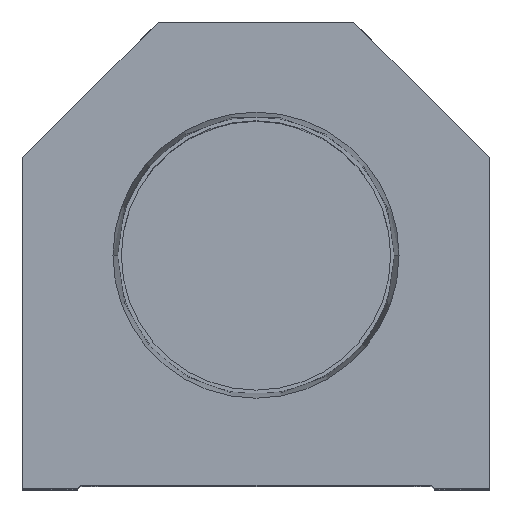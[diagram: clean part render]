
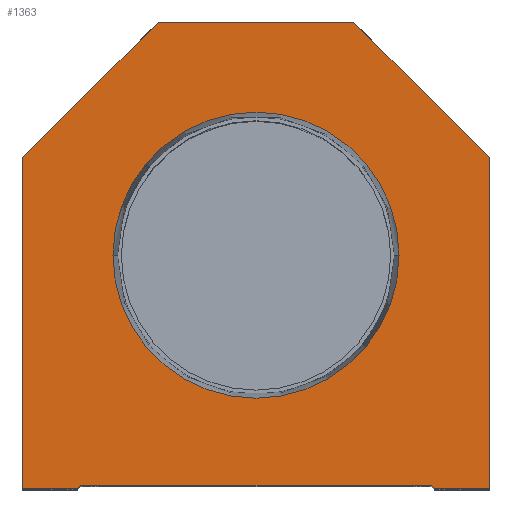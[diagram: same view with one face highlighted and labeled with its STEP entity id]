
A CAD part, top view. The second image highlights one B-rep face of the part: STEP entity #1363.
In plain terms, the highlighted planar face has unit normal (0, 0, 1).
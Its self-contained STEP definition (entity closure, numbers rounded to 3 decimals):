
#62 = LINE ( 'NONE', #5202, #13081 ) ;
#248 = FACE_BOUND ( 'NONE', #15705, .T. ) ;
#261 = DIRECTION ( 'NONE',  ( 0.707, -0.707, 0. ) ) ;
#275 = DIRECTION ( 'NONE',  ( 1., 0., 0. ) ) ;
#625 = DIRECTION ( 'NONE',  ( -1., 0., 0. ) ) ;
#743 = CARTESIAN_POINT ( 'NONE',  ( 16., 76.2, 0. ) ) ;
#905 = DIRECTION ( 'NONE',  ( 0.707, 0.707, 0. ) ) ;
#1092 = VERTEX_POINT ( 'NONE', #5090 ) ;
#1361 = CARTESIAN_POINT ( 'NONE',  ( -38.1, 0., 0. ) ) ;
#1363 = ADVANCED_FACE ( 'NONE', ( #248, #10842 ), #6799, .T. ) ;
#1418 = VERTEX_POINT ( 'NONE', #14984 ) ;
#1526 = ORIENTED_EDGE ( 'NONE', *, *, #9834, .F. ) ;
#1748 = ORIENTED_EDGE ( 'NONE', *, *, #9357, .T. ) ;
#2117 = AXIS2_PLACEMENT_3D ( 'NONE', #16730, #15607, #11363 ) ;
#2367 = LINE ( 'NONE', #16811, #14946 ) ;
#2427 = LINE ( 'NONE', #8752, #12309 ) ;
#2482 = VECTOR ( 'NONE', #625, 1000. ) ;
#2639 = VERTEX_POINT ( 'NONE', #3225 ) ;
#2698 = VERTEX_POINT ( 'NONE', #8610 ) ;
#2814 = ORIENTED_EDGE ( 'NONE', *, *, #7598, .T. ) ;
#3225 = CARTESIAN_POINT ( 'NONE',  ( 28.6, 0.5, 0. ) ) ;
#3289 = VERTEX_POINT ( 'NONE', #6743 ) ;
#3616 = VECTOR ( 'NONE', #905, 1000. ) ;
#3782 = CIRCLE ( 'NONE', #2117, 23.374 ) ;
#4120 = LINE ( 'NONE', #13556, #12375 ) ;
#4180 = DIRECTION ( 'NONE',  ( 0., 0., 1. ) ) ;
#4314 = VERTEX_POINT ( 'NONE', #16667 ) ;
#4358 = LINE ( 'NONE', #9612, #5759 ) ;
#4691 = VERTEX_POINT ( 'NONE', #11503 ) ;
#4780 = VECTOR ( 'NONE', #7660, 1000. ) ;
#4964 = LINE ( 'NONE', #10223, #10073 ) ;
#5090 = CARTESIAN_POINT ( 'NONE',  ( -16., 76.2, 0. ) ) ;
#5162 = CARTESIAN_POINT ( 'NONE',  ( -14.55, 14.55, 0. ) ) ;
#5202 = CARTESIAN_POINT ( 'NONE',  ( -28.6, 0.5, 0. ) ) ;
#5211 = EDGE_CURVE ( 'NONE', #1418, #17012, #14052, .T. ) ;
#5485 = ORIENTED_EDGE ( 'NONE', *, *, #12732, .T. ) ;
#5517 = DIRECTION ( 'NONE',  ( 0., -1., 0. ) ) ;
#5758 = EDGE_CURVE ( 'NONE', #2639, #1418, #4358, .T. ) ;
#5759 = VECTOR ( 'NONE', #261, 1000. ) ;
#5882 = CARTESIAN_POINT ( 'NONE',  ( 23.374, 38.1, 0. ) ) ;
#6157 = AXIS2_PLACEMENT_3D ( 'NONE', #14752, #4180, #15852 ) ;
#6743 = CARTESIAN_POINT ( 'NONE',  ( -29.1, 0., 0. ) ) ;
#6799 = PLANE ( 'NONE',  #6157 ) ;
#7075 = LINE ( 'NONE', #12486, #2482 ) ;
#7088 = DIRECTION ( 'NONE',  ( 1., 0., 0. ) ) ;
#7153 = CIRCLE ( 'NONE', #12089, 23.374 ) ;
#7598 = EDGE_CURVE ( 'NONE', #1092, #4691, #4964, .T. ) ;
#7660 = DIRECTION ( 'NONE',  ( 1., 0., 0. ) ) ;
#8122 = EDGE_LOOP ( 'NONE', ( #9719, #14896, #17114, #12190, #8479, #1748, #13539, #5485, #2814, #11129 ) ) ;
#8343 = VERTEX_POINT ( 'NONE', #15591 ) ;
#8477 = CARTESIAN_POINT ( 'NONE',  ( 0., 38.1, 0. ) ) ;
#8479 = ORIENTED_EDGE ( 'NONE', *, *, #5211, .T. ) ;
#8610 = CARTESIAN_POINT ( 'NONE',  ( -23.374, 38.1, 0. ) ) ;
#8694 = DIRECTION ( 'NONE',  ( -0.707, 0.707, 0. ) ) ;
#8752 = CARTESIAN_POINT ( 'NONE',  ( 38.1, 0., 0. ) ) ;
#9357 = EDGE_CURVE ( 'NONE', #17012, #4314, #2427, .T. ) ;
#9507 = VERTEX_POINT ( 'NONE', #5882 ) ;
#9612 = CARTESIAN_POINT ( 'NONE',  ( 14.55, 14.55, 0. ) ) ;
#9719 = ORIENTED_EDGE ( 'NONE', *, *, #11571, .T. ) ;
#9834 = EDGE_CURVE ( 'NONE', #2698, #9507, #3782, .T. ) ;
#10073 = VECTOR ( 'NONE', #14048, 1000. ) ;
#10094 = VERTEX_POINT ( 'NONE', #743 ) ;
#10143 = VECTOR ( 'NONE', #5517, 1000. ) ;
#10223 = CARTESIAN_POINT ( 'NONE',  ( -38.1, 54.1, 0. ) ) ;
#10307 = EDGE_CURVE ( 'NONE', #4691, #8343, #14793, .T. ) ;
#10362 = ORIENTED_EDGE ( 'NONE', *, *, #11352, .F. ) ;
#10842 = FACE_OUTER_BOUND ( 'NONE', #8122, .T. ) ;
#11129 = ORIENTED_EDGE ( 'NONE', *, *, #10307, .T. ) ;
#11242 = DIRECTION ( 'NONE',  ( 0., 1., 0. ) ) ;
#11352 = EDGE_CURVE ( 'NONE', #9507, #2698, #7153, .T. ) ;
#11363 = DIRECTION ( 'NONE',  ( 1., 0., 0. ) ) ;
#11451 = CARTESIAN_POINT ( 'NONE',  ( 38.1, 0., 0. ) ) ;
#11503 = CARTESIAN_POINT ( 'NONE',  ( -38.1, 54.1, 0. ) ) ;
#11571 = EDGE_CURVE ( 'NONE', #8343, #3289, #4120, .T. ) ;
#11612 = CARTESIAN_POINT ( 'NONE',  ( 28.6, 0., 0. ) ) ;
#12089 = AXIS2_PLACEMENT_3D ( 'NONE', #8477, #13741, #7088 ) ;
#12120 = VERTEX_POINT ( 'NONE', #15812 ) ;
#12190 = ORIENTED_EDGE ( 'NONE', *, *, #5758, .T. ) ;
#12309 = VECTOR ( 'NONE', #11242, 1000. ) ;
#12375 = VECTOR ( 'NONE', #275, 1000. ) ;
#12486 = CARTESIAN_POINT ( 'NONE',  ( 16., 76.2, 0. ) ) ;
#12732 = EDGE_CURVE ( 'NONE', #10094, #1092, #7075, .T. ) ;
#12764 = LINE ( 'NONE', #5162, #3616 ) ;
#13081 = VECTOR ( 'NONE', #16969, 1000. ) ;
#13539 = ORIENTED_EDGE ( 'NONE', *, *, #14337, .T. ) ;
#13556 = CARTESIAN_POINT ( 'NONE',  ( -28.6, 0., 0. ) ) ;
#13741 = DIRECTION ( 'NONE',  ( 0., 0., 1. ) ) ;
#14048 = DIRECTION ( 'NONE',  ( -0.707, -0.707, 0. ) ) ;
#14052 = LINE ( 'NONE', #11612, #4780 ) ;
#14129 = EDGE_CURVE ( 'NONE', #3289, #12120, #12764, .T. ) ;
#14337 = EDGE_CURVE ( 'NONE', #4314, #10094, #2367, .T. ) ;
#14752 = CARTESIAN_POINT ( 'NONE',  ( 0., 0., 0. ) ) ;
#14793 = LINE ( 'NONE', #1361, #10143 ) ;
#14896 = ORIENTED_EDGE ( 'NONE', *, *, #14129, .T. ) ;
#14946 = VECTOR ( 'NONE', #8694, 1000. ) ;
#14984 = CARTESIAN_POINT ( 'NONE',  ( 29.1, 0., 0. ) ) ;
#15591 = CARTESIAN_POINT ( 'NONE',  ( -38.1, 0., 0. ) ) ;
#15607 = DIRECTION ( 'NONE',  ( 0., 0., 1. ) ) ;
#15705 = EDGE_LOOP ( 'NONE', ( #10362, #1526 ) ) ;
#15812 = CARTESIAN_POINT ( 'NONE',  ( -28.6, 0.5, 0. ) ) ;
#15852 = DIRECTION ( 'NONE',  ( 1., 0., 0. ) ) ;
#16369 = EDGE_CURVE ( 'NONE', #12120, #2639, #62, .T. ) ;
#16667 = CARTESIAN_POINT ( 'NONE',  ( 38.1, 54.1, 0. ) ) ;
#16730 = CARTESIAN_POINT ( 'NONE',  ( 0., 38.1, 0. ) ) ;
#16811 = CARTESIAN_POINT ( 'NONE',  ( 38.1, 54.1, 0. ) ) ;
#16969 = DIRECTION ( 'NONE',  ( 1., 0., 0. ) ) ;
#17012 = VERTEX_POINT ( 'NONE', #11451 ) ;
#17114 = ORIENTED_EDGE ( 'NONE', *, *, #16369, .T. ) ;
